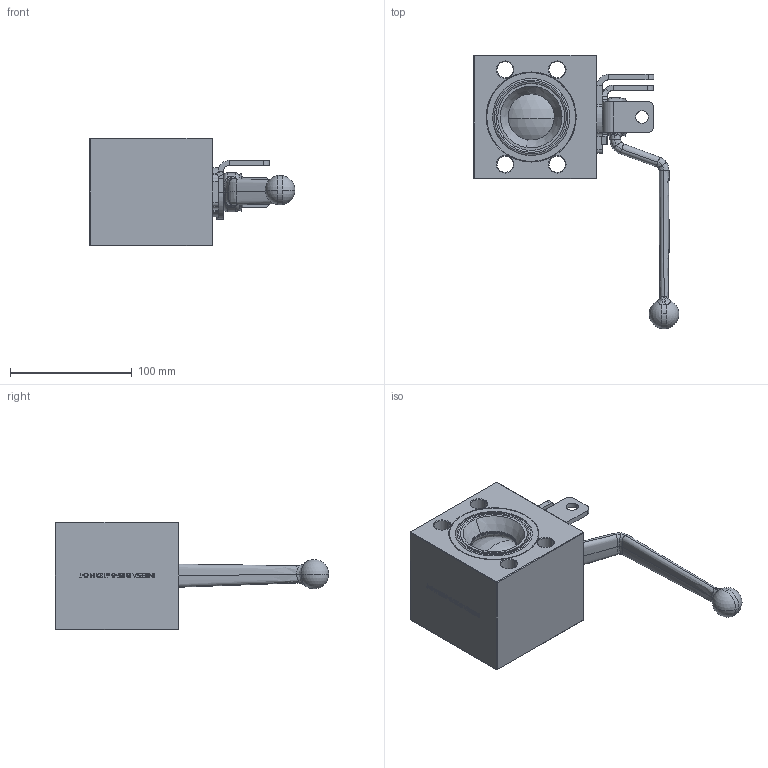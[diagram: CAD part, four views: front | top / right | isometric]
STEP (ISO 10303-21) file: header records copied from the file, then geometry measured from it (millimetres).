
FILE_DESCRIPTION (( 'STEP AP214' ), '1' );
FILE_NAME ('IBF-B-6132-N-D-T-Closed.STEP', '2025-12-02T16:07:42', ( '' ), ( '' ), 'SwSTEP 2.0', 'SolidWorks 2023', '' );
FILE_SCHEMA (( 'AUTOMOTIVE_DESIGN' ));
Length unit declared in the file: inch
Products named in the file (1): IBF-B-6132-N-D-T-Closed
Bounding box: 169.25 x 224.91 x 88.52 mm (x, y, z)
Volume: 785951.4 mm3; surface area: 157996.1 mm2
Topology: 2 solids, 3 shells, 1083 faces, 2948 edges, 1913 vertices
Faces by surface type: plane 497, bspline 215, cylinder 185, torus 93, cone 67, sphere 26
Entity records: 60375 total; most frequent: CARTESIAN_POINT 34918, ORIENTED_EDGE 5880, DIRECTION 4442, EDGE_CURVE 2940, VERTEX_POINT 1911, AXIS2_PLACEMENT_3D 1527, LINE 1388, VECTOR 1388
